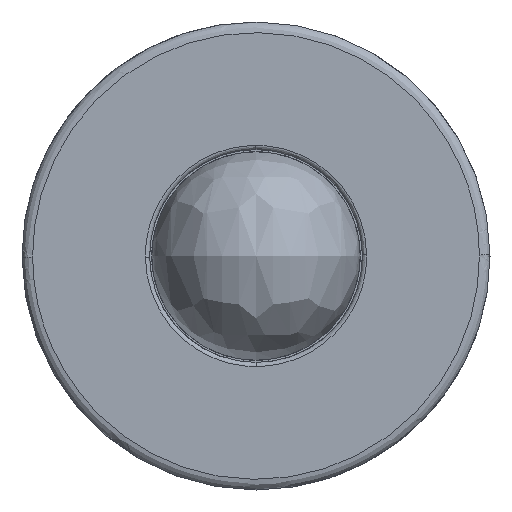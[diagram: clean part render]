
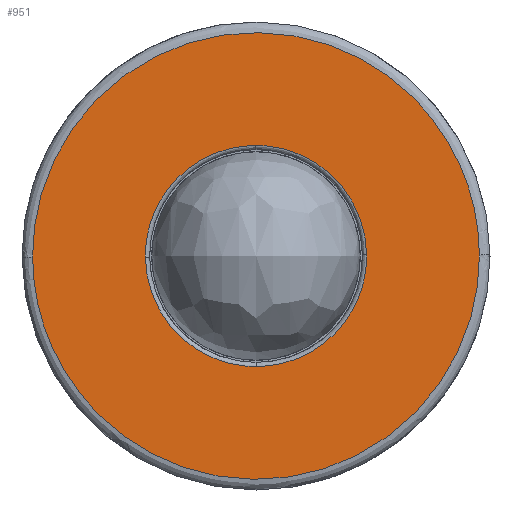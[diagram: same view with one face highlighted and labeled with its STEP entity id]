
A CAD part, front view. The second image highlights one B-rep face of the part: STEP entity #951.
In plain terms, the highlighted planar face has unit normal (0, -1, 0).
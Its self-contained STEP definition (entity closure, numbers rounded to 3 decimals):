
#24 = CARTESIAN_POINT ( 'NONE',  ( 10.5, 0., 0. ) ) ;
#124 = ORIENTED_EDGE ( 'NONE', *, *, #12292, .F. ) ;
#744 = CARTESIAN_POINT ( 'NONE',  ( -10.5, 0., -0.054 ) ) ;
#951 = ADVANCED_FACE ( 'NONE', ( #16681, #5257 ), #3686, .F. ) ;
#1067 = EDGE_LOOP ( 'NONE', ( #15444, #7817, #124, #14215 ) ) ;
#1234 = CARTESIAN_POINT ( 'NONE',  ( 5.089, 0., 10.344 ) ) ;
#1294 = CARTESIAN_POINT ( 'NONE',  ( -5.2, 0., 0. ) ) ;
#1451 = CARTESIAN_POINT ( 'NONE',  ( -10.5, 0., 0. ) ) ;
#1785 =( BOUNDED_CURVE ( )  B_SPLINE_CURVE ( 3, ( #19422, #17766, #17874, #1451 ),
 .UNSPECIFIED., .F., .F. ) 
 B_SPLINE_CURVE_WITH_KNOTS ( ( 4, 4 ),
 ( 0.998, 1. ),
 .UNSPECIFIED. ) 
 CURVE ( )  GEOMETRIC_REPRESENTATION_ITEM ( )  RATIONAL_B_SPLINE_CURVE ( ( 1., 1., 1., 1. ) ) 
 REPRESENTATION_ITEM ( '' )  );
#1988 = EDGE_CURVE ( 'NONE', #16912, #19596, #13221, .T. ) ;
#2393 = EDGE_CURVE ( 'NONE', #3711, #11771, #1785, .T. ) ;
#2685 =( BOUNDED_CURVE ( )  B_SPLINE_CURVE ( 3, ( #9396, #9204, #10957, #13989 ),
 .UNSPECIFIED., .F., .F. ) 
 B_SPLINE_CURVE_WITH_KNOTS ( ( 4, 4 ),
 ( 0., 0.003 ),
 .UNSPECIFIED. ) 
 CURVE ( )  GEOMETRIC_REPRESENTATION_ITEM ( )  RATIONAL_B_SPLINE_CURVE ( ( 1., 1., 1., 1. ) ) 
 REPRESENTATION_ITEM ( '' )  );
#2890 = CARTESIAN_POINT ( 'NONE',  ( -5.2, 0., 10.289 ) ) ;
#3222 = CARTESIAN_POINT ( 'NONE',  ( -5.2, 0., -0.019 ) ) ;
#3297 =( BOUNDED_CURVE ( )  B_SPLINE_CURVE ( 3, ( #10587, #1234, #2890, #9254 ),
 .UNSPECIFIED., .F., .T. ) 
 B_SPLINE_CURVE_WITH_KNOTS ( ( 4, 4 ),
 ( 0.003, 1. ),
 .UNSPECIFIED. ) 
 CURVE ( )  GEOMETRIC_REPRESENTATION_ITEM ( )  RATIONAL_B_SPLINE_CURVE ( ( 1., 0.337, 0.337, 1. ) ) 
 REPRESENTATION_ITEM ( '' )  );
#3342 = ORIENTED_EDGE ( 'NONE', *, *, #5970, .F. ) ;
#3686 = PLANE ( 'NONE',  #15555 ) ;
#3711 = VERTEX_POINT ( 'NONE', #744 ) ;
#4310 = ORIENTED_EDGE ( 'NONE', *, *, #9083, .F. ) ;
#4683 = CARTESIAN_POINT ( 'NONE',  ( 10.5, 0., 0.054 ) ) ;
#4713 = CARTESIAN_POINT ( 'NONE',  ( -5.2, 0., -0.056 ) ) ;
#4793 = CARTESIAN_POINT ( 'NONE',  ( 10.5, 0., 0. ) ) ;
#5257 = FACE_OUTER_BOUND ( 'NONE', #6351, .T. ) ;
#5492 =( BOUNDED_CURVE ( )  B_SPLINE_CURVE ( 3, ( #4793, #9689, #14283, #6655 ),
 .UNSPECIFIED., .F., .T. ) 
 B_SPLINE_CURVE_WITH_KNOTS ( ( 4, 4 ),
 ( 0., 0.998 ),
 .UNSPECIFIED. ) 
 CURVE ( )  GEOMETRIC_REPRESENTATION_ITEM ( )  RATIONAL_B_SPLINE_CURVE ( ( 1., 0.335, 0.335, 1. ) ) 
 REPRESENTATION_ITEM ( '' )  );
#5934 = VERTEX_POINT ( 'NONE', #1294 ) ;
#5958 = EDGE_CURVE ( 'NONE', #19596, #9976, #2685, .T. ) ;
#5970 = EDGE_CURVE ( 'NONE', #19156, #7741, #12407, .T. ) ;
#6178 = CARTESIAN_POINT ( 'NONE',  ( 5.2, 0., 0. ) ) ;
#6351 = EDGE_LOOP ( 'NONE', ( #7652, #8327, #4310, #3342 ) ) ;
#6655 = CARTESIAN_POINT ( 'NONE',  ( -10.5, 0., -0.054 ) ) ;
#7203 = CARTESIAN_POINT ( 'NONE',  ( 0., 0., 0. ) ) ;
#7652 = ORIENTED_EDGE ( 'NONE', *, *, #15839, .F. ) ;
#7719 = CARTESIAN_POINT ( 'NONE',  ( -10.5, 0., 0. ) ) ;
#7741 = VERTEX_POINT ( 'NONE', #24 ) ;
#7817 = ORIENTED_EDGE ( 'NONE', *, *, #1988, .F. ) ;
#7845 = CARTESIAN_POINT ( 'NONE',  ( 10.5, 0., 0.018 ) ) ;
#8327 = ORIENTED_EDGE ( 'NONE', *, *, #2393, .F. ) ;
#8528 = CARTESIAN_POINT ( 'NONE',  ( 5.2, 0., 0.056 ) ) ;
#9067 = CARTESIAN_POINT ( 'NONE',  ( 10.5, 0., 0.054 ) ) ;
#9083 = EDGE_CURVE ( 'NONE', #7741, #3711, #5492, .T. ) ;
#9204 = CARTESIAN_POINT ( 'NONE',  ( 5.2, 0., 0.019 ) ) ;
#9254 = CARTESIAN_POINT ( 'NONE',  ( -5.2, 0., 0. ) ) ;
#9300 = CARTESIAN_POINT ( 'NONE',  ( 5.2, 0., 0. ) ) ;
#9396 = CARTESIAN_POINT ( 'NONE',  ( 5.2, 0., 0. ) ) ;
#9689 = CARTESIAN_POINT ( 'NONE',  ( 10.5, 0., -20.893 ) ) ;
#9976 = VERTEX_POINT ( 'NONE', #8528 ) ;
#10587 = CARTESIAN_POINT ( 'NONE',  ( 5.2, 0., 0.056 ) ) ;
#10957 = CARTESIAN_POINT ( 'NONE',  ( 5.2, 0., 0.037 ) ) ;
#11121 = CARTESIAN_POINT ( 'NONE',  ( -5.2, 0., 0. ) ) ;
#11512 = CARTESIAN_POINT ( 'NONE',  ( -5.2, 0., -0.056 ) ) ;
#11541 = CARTESIAN_POINT ( 'NONE',  ( -5.2, 0., -0.037 ) ) ;
#11771 = VERTEX_POINT ( 'NONE', #14832 ) ;
#12292 = EDGE_CURVE ( 'NONE', #5934, #16912, #12600, .T. ) ;
#12385 = CARTESIAN_POINT ( 'NONE',  ( -10.5, 0., 20.893 ) ) ;
#12407 =( BOUNDED_CURVE ( )  B_SPLINE_CURVE ( 3, ( #12636, #17212, #7845, #15859 ),
 .UNSPECIFIED., .F., .F. ) 
 B_SPLINE_CURVE_WITH_KNOTS ( ( 4, 4 ),
 ( 0.998, 1. ),
 .UNSPECIFIED. ) 
 CURVE ( )  GEOMETRIC_REPRESENTATION_ITEM ( )  RATIONAL_B_SPLINE_CURVE ( ( 1., 1., 1., 1. ) ) 
 REPRESENTATION_ITEM ( '' )  );
#12600 =( BOUNDED_CURVE ( )  B_SPLINE_CURVE ( 3, ( #11121, #3222, #11541, #17893 ),
 .UNSPECIFIED., .F., .F. ) 
 B_SPLINE_CURVE_WITH_KNOTS ( ( 4, 4 ),
 ( 0., 0.003 ),
 .UNSPECIFIED. ) 
 CURVE ( )  GEOMETRIC_REPRESENTATION_ITEM ( )  RATIONAL_B_SPLINE_CURVE ( ( 1., 1., 1., 1. ) ) 
 REPRESENTATION_ITEM ( '' )  );
#12636 = CARTESIAN_POINT ( 'NONE',  ( 10.5, 0., 0.054 ) ) ;
#12833 = CARTESIAN_POINT ( 'NONE',  ( -5.089, 0., -10.344 ) ) ;
#13221 =( BOUNDED_CURVE ( )  B_SPLINE_CURVE ( 3, ( #4713, #12833, #17615, #9300 ),
 .UNSPECIFIED., .F., .F. ) 
 B_SPLINE_CURVE_WITH_KNOTS ( ( 4, 4 ),
 ( 0.003, 1. ),
 .UNSPECIFIED. ) 
 CURVE ( )  GEOMETRIC_REPRESENTATION_ITEM ( )  RATIONAL_B_SPLINE_CURVE ( ( 1., 0.337, 0.337, 1. ) ) 
 REPRESENTATION_ITEM ( '' )  );
#13712 = EDGE_CURVE ( 'NONE', #9976, #5934, #3297, .T. ) ;
#13989 = CARTESIAN_POINT ( 'NONE',  ( 5.2, 0., 0.056 ) ) ;
#14066 = CARTESIAN_POINT ( 'NONE',  ( 10.393, 0., 20.946 ) ) ;
#14215 = ORIENTED_EDGE ( 'NONE', *, *, #13712, .F. ) ;
#14283 = CARTESIAN_POINT ( 'NONE',  ( -10.393, 0., -20.946 ) ) ;
#14828 = DIRECTION ( 'NONE',  ( 0., 0., 1. ) ) ;
#14832 = CARTESIAN_POINT ( 'NONE',  ( -10.5, 0., 0. ) ) ;
#15444 = ORIENTED_EDGE ( 'NONE', *, *, #5958, .F. ) ;
#15555 = AXIS2_PLACEMENT_3D ( 'NONE', #7203, #18034, #14828 ) ;
#15839 = EDGE_CURVE ( 'NONE', #11771, #19156, #16477, .T. ) ;
#15859 = CARTESIAN_POINT ( 'NONE',  ( 10.5, 0., 0. ) ) ;
#16477 =( BOUNDED_CURVE ( )  B_SPLINE_CURVE ( 3, ( #7719, #12385, #14066, #9067 ),
 .UNSPECIFIED., .F., .T. ) 
 B_SPLINE_CURVE_WITH_KNOTS ( ( 4, 4 ),
 ( 0., 0.998 ),
 .UNSPECIFIED. ) 
 CURVE ( )  GEOMETRIC_REPRESENTATION_ITEM ( )  RATIONAL_B_SPLINE_CURVE ( ( 1., 0.335, 0.335, 1. ) ) 
 REPRESENTATION_ITEM ( '' )  );
#16681 = FACE_BOUND ( 'NONE', #1067, .T. ) ;
#16912 = VERTEX_POINT ( 'NONE', #11512 ) ;
#17212 = CARTESIAN_POINT ( 'NONE',  ( 10.5, 0., 0.036 ) ) ;
#17615 = CARTESIAN_POINT ( 'NONE',  ( 5.2, 0., -10.289 ) ) ;
#17766 = CARTESIAN_POINT ( 'NONE',  ( -10.5, 0., -0.036 ) ) ;
#17874 = CARTESIAN_POINT ( 'NONE',  ( -10.5, 0., -0.018 ) ) ;
#17893 = CARTESIAN_POINT ( 'NONE',  ( -5.2, 0., -0.056 ) ) ;
#18034 = DIRECTION ( 'NONE',  ( 0., 1., 0. ) ) ;
#19156 = VERTEX_POINT ( 'NONE', #4683 ) ;
#19422 = CARTESIAN_POINT ( 'NONE',  ( -10.5, 0., -0.054 ) ) ;
#19596 = VERTEX_POINT ( 'NONE', #6178 ) ;
